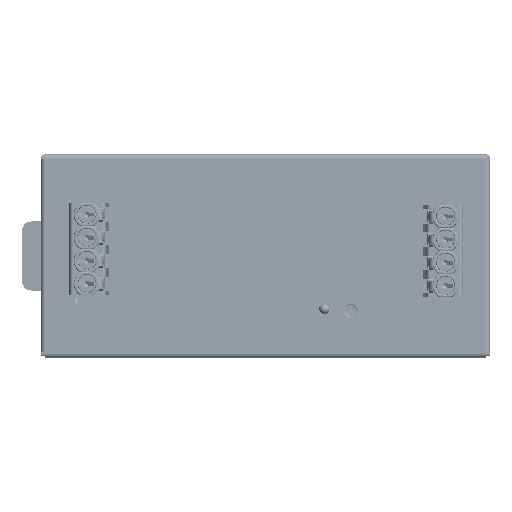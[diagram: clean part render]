
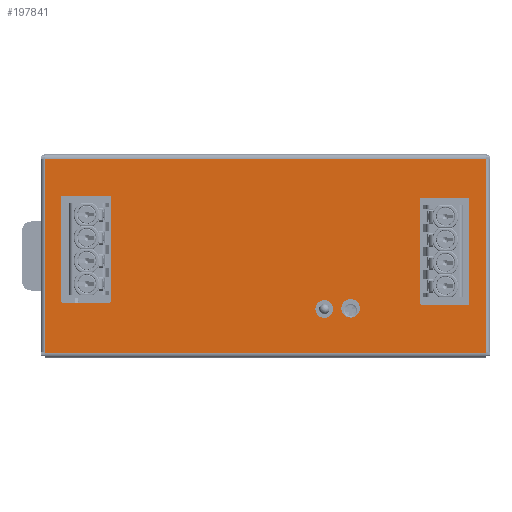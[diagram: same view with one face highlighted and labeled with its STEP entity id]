
A CAD part, front view. The second image highlights one B-rep face of the part: STEP entity #197841.
In plain terms, the highlighted planar face has unit normal (0, -1, 0).
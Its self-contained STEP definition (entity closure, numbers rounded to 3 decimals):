
#78665=DIRECTION('',(0.,0.,-1.));
#78666=VECTOR('',#78665,0.4);
#78667=CARTESIAN_POINT('',(118.1,-2.2,-6.8));
#78668=LINE('',#78667,#78666);
#78669=CARTESIAN_POINT('',(73.7,-2.2,5.));
#78670=DIRECTION('',(0.,-1.,0.));
#78671=DIRECTION('',(1.,0.,0.));
#78672=AXIS2_PLACEMENT_3D('',#78669,#78670,#78671);
#78674=CARTESIAN_POINT('',(73.7,-2.2,5.));
#78675=DIRECTION('',(0.,-1.,0.));
#78676=DIRECTION('',(-1.,0.,0.));
#78677=AXIS2_PLACEMENT_3D('',#78674,#78675,#78676);
#78679=CARTESIAN_POINT('',(80.94,-2.2,5.2));
#78680=DIRECTION('',(0.,-1.,0.));
#78681=DIRECTION('',(1.,0.,0.));
#78682=AXIS2_PLACEMENT_3D('',#78679,#78680,#78681);
#78684=CARTESIAN_POINT('',(80.94,-2.2,5.2));
#78685=DIRECTION('',(0.,-1.,0.));
#78686=DIRECTION('',(-1.,0.,0.));
#78687=AXIS2_PLACEMENT_3D('',#78684,#78685,#78686);
#78689=DIRECTION('',(0.,0.,1.));
#78690=VECTOR('',#78689,28.95);
#78691=CARTESIAN_POINT('',(14.95,-2.2,6.975));
#78692=LINE('',#78691,#78690);
#78693=CARTESIAN_POINT('',(14.75,-2.2,35.925));
#78694=DIRECTION('',(0.,-1.,0.));
#78695=DIRECTION('',(1.,0.,0.));
#78696=AXIS2_PLACEMENT_3D('',#78693,#78694,#78695);
#78698=DIRECTION('',(-1.,0.,0.));
#78699=VECTOR('',#78698,13.2);
#78700=CARTESIAN_POINT('',(14.75,-2.2,36.125));
#78701=LINE('',#78700,#78699);
#78702=CARTESIAN_POINT('',(1.55,-2.2,35.925));
#78703=DIRECTION('',(0.,-1.,0.));
#78704=DIRECTION('',(0.,0.,1.));
#78705=AXIS2_PLACEMENT_3D('',#78702,#78703,#78704);
#78707=DIRECTION('',(0.,0.,-1.));
#78708=VECTOR('',#78707,28.95);
#78709=CARTESIAN_POINT('',(1.35,-2.2,35.925));
#78710=LINE('',#78709,#78708);
#78711=CARTESIAN_POINT('',(1.55,-2.2,6.975));
#78712=DIRECTION('',(0.,-1.,0.));
#78713=DIRECTION('',(-1.,0.,0.));
#78714=AXIS2_PLACEMENT_3D('',#78711,#78712,#78713);
#78716=DIRECTION('',(1.,0.,0.));
#78717=VECTOR('',#78716,13.2);
#78718=CARTESIAN_POINT('',(1.55,-2.2,6.775));
#78719=LINE('',#78718,#78717);
#78720=CARTESIAN_POINT('',(14.75,-2.2,6.975));
#78721=DIRECTION('',(0.,-1.,0.));
#78722=DIRECTION('',(0.,0.,-1.));
#78723=AXIS2_PLACEMENT_3D('',#78720,#78721,#78722);
#78725=DIRECTION('',(-1.,0.,0.));
#78726=VECTOR('',#78725,13.2);
#78727=CARTESIAN_POINT('',(113.45,-2.2,35.6));
#78728=LINE('',#78727,#78726);
#78729=CARTESIAN_POINT('',(100.25,-2.2,35.4));
#78730=DIRECTION('',(0.,-1.,0.));
#78731=DIRECTION('',(0.,0.,1.));
#78732=AXIS2_PLACEMENT_3D('',#78729,#78730,#78731);
#78734=DIRECTION('',(0.,0.,-1.));
#78735=VECTOR('',#78734,28.95);
#78736=CARTESIAN_POINT('',(100.05,-2.2,35.4));
#78737=LINE('',#78736,#78735);
#78738=CARTESIAN_POINT('',(100.25,-2.2,6.45));
#78739=DIRECTION('',(0.,-1.,0.));
#78740=DIRECTION('',(-1.,0.,0.));
#78741=AXIS2_PLACEMENT_3D('',#78738,#78739,#78740);
#78743=DIRECTION('',(1.,0.,0.));
#78744=VECTOR('',#78743,13.2);
#78745=CARTESIAN_POINT('',(100.25,-2.2,6.25));
#78746=LINE('',#78745,#78744);
#78747=CARTESIAN_POINT('',(113.45,-2.2,6.45));
#78748=DIRECTION('',(0.,-1.,0.));
#78749=DIRECTION('',(0.,0.,-1.));
#78750=AXIS2_PLACEMENT_3D('',#78747,#78748,#78749);
#78752=DIRECTION('',(0.,0.,1.));
#78753=VECTOR('',#78752,28.95);
#78754=CARTESIAN_POINT('',(113.65,-2.2,6.45));
#78755=LINE('',#78754,#78753);
#78756=CARTESIAN_POINT('',(113.45,-2.2,35.4));
#78757=DIRECTION('',(0.,-1.,0.));
#78758=DIRECTION('',(1.,0.,0.));
#78759=AXIS2_PLACEMENT_3D('',#78756,#78757,#78758);
#78765=DIRECTION('',(0.,0.,-1.));
#78766=VECTOR('',#78765,53.2);
#78767=CARTESIAN_POINT('',(-3.1,-2.2,46.4));
#78768=LINE('',#78767,#78766);
#78822=DIRECTION('',(0.,0.,-1.));
#78823=VECTOR('',#78822,0.4);
#78824=CARTESIAN_POINT('',(-3.1,-2.2,-6.8));
#78825=LINE('',#78824,#78823);
#78843=DIRECTION('',(1.,0.,0.));
#78844=VECTOR('',#78843,121.2);
#78845=CARTESIAN_POINT('',(-3.1,-2.2,-7.2));
#78846=LINE('',#78845,#78844);
#79738=DIRECTION('',(-1.,0.,0.));
#79739=VECTOR('',#79738,121.2);
#79740=CARTESIAN_POINT('',(118.1,-2.2,46.4));
#79741=LINE('',#79740,#79739);
#79750=DIRECTION('',(0.,0.,1.));
#79751=VECTOR('',#79750,53.2);
#79752=CARTESIAN_POINT('',(118.1,-2.2,-6.8));
#79753=LINE('',#79752,#79751);
#103017=CARTESIAN_POINT('',(-3.1,-2.2,46.4));
#103018=VERTEX_POINT('',#103017);
#103019=CARTESIAN_POINT('',(118.1,-2.2,46.4));
#103020=VERTEX_POINT('',#103019);
#105243=CARTESIAN_POINT('',(-3.1,-2.2,-6.8));
#105244=VERTEX_POINT('',#105243);
#105245=CARTESIAN_POINT('',(118.1,-2.2,-6.8));
#105246=VERTEX_POINT('',#105245);
#105247=CARTESIAN_POINT('',(118.1,-2.2,-7.2));
#105248=VERTEX_POINT('',#105247);
#105249=CARTESIAN_POINT('',(-3.1,-2.2,-7.2));
#105250=VERTEX_POINT('',#105249);
#105251=CARTESIAN_POINT('',(76.15,-2.2,5.));
#105252=CARTESIAN_POINT('',(71.25,-2.2,5.));
#105253=VERTEX_POINT('',#105251);
#105254=VERTEX_POINT('',#105252);
#105255=CARTESIAN_POINT('',(83.49,-2.2,5.2));
#105256=CARTESIAN_POINT('',(78.39,-2.2,5.2));
#105257=VERTEX_POINT('',#105255);
#105258=VERTEX_POINT('',#105256);
#105259=CARTESIAN_POINT('',(14.95,-2.2,6.975));
#105260=CARTESIAN_POINT('',(14.95,-2.2,35.925));
#105261=VERTEX_POINT('',#105259);
#105262=VERTEX_POINT('',#105260);
#105263=CARTESIAN_POINT('',(14.75,-2.2,36.125));
#105264=VERTEX_POINT('',#105263);
#105265=CARTESIAN_POINT('',(1.55,-2.2,36.125));
#105266=VERTEX_POINT('',#105265);
#105267=CARTESIAN_POINT('',(1.35,-2.2,35.925));
#105268=VERTEX_POINT('',#105267);
#105269=CARTESIAN_POINT('',(1.35,-2.2,6.975));
#105270=VERTEX_POINT('',#105269);
#105271=CARTESIAN_POINT('',(1.55,-2.2,6.775));
#105272=VERTEX_POINT('',#105271);
#105273=CARTESIAN_POINT('',(14.75,-2.2,6.775));
#105274=VERTEX_POINT('',#105273);
#105275=CARTESIAN_POINT('',(113.45,-2.2,35.6));
#105276=CARTESIAN_POINT('',(100.25,-2.2,35.6));
#105277=VERTEX_POINT('',#105275);
#105278=VERTEX_POINT('',#105276);
#105279=CARTESIAN_POINT('',(100.05,-2.2,35.4));
#105280=VERTEX_POINT('',#105279);
#105281=CARTESIAN_POINT('',(100.05,-2.2,6.45));
#105282=VERTEX_POINT('',#105281);
#105283=CARTESIAN_POINT('',(100.25,-2.2,6.25));
#105284=VERTEX_POINT('',#105283);
#105285=CARTESIAN_POINT('',(113.45,-2.2,6.25));
#105286=VERTEX_POINT('',#105285);
#105287=CARTESIAN_POINT('',(113.65,-2.2,6.45));
#105288=VERTEX_POINT('',#105287);
#105289=CARTESIAN_POINT('',(113.65,-2.2,35.4));
#105290=VERTEX_POINT('',#105289);
#197775=CARTESIAN_POINT('',(-4.3,-2.2,47.6));
#197776=DIRECTION('',(0.,-1.,0.));
#197777=DIRECTION('',(-1.,0.,0.));
#197778=AXIS2_PLACEMENT_3D('',#197775,#197776,#197777);
#197779=PLANE('',#197778);
#197781=ORIENTED_EDGE('',*,*,#197780,.F.);
#197783=ORIENTED_EDGE('',*,*,#197782,.F.);
#197785=ORIENTED_EDGE('',*,*,#197784,.F.);
#197786=ORIENTED_EDGE('',*,*,#197766,.T.);
#197788=ORIENTED_EDGE('',*,*,#197787,.F.);
#197790=ORIENTED_EDGE('',*,*,#197789,.F.);
#197791=EDGE_LOOP('',(#197781,#197783,#197785,#197786,#197788,#197790));
#197792=FACE_OUTER_BOUND('',#197791,.F.);
#197794=ORIENTED_EDGE('',*,*,#197793,.T.);
#197796=ORIENTED_EDGE('',*,*,#197795,.T.);
#197797=EDGE_LOOP('',(#197794,#197796));
#197798=FACE_BOUND('',#197797,.F.);
#197800=ORIENTED_EDGE('',*,*,#197799,.T.);
#197802=ORIENTED_EDGE('',*,*,#197801,.T.);
#197803=EDGE_LOOP('',(#197800,#197802));
#197804=FACE_BOUND('',#197803,.F.);
#197806=ORIENTED_EDGE('',*,*,#197805,.T.);
#197808=ORIENTED_EDGE('',*,*,#197807,.T.);
#197810=ORIENTED_EDGE('',*,*,#197809,.T.);
#197812=ORIENTED_EDGE('',*,*,#197811,.T.);
#197814=ORIENTED_EDGE('',*,*,#197813,.T.);
#197816=ORIENTED_EDGE('',*,*,#197815,.T.);
#197818=ORIENTED_EDGE('',*,*,#197817,.T.);
#197820=ORIENTED_EDGE('',*,*,#197819,.T.);
#197821=EDGE_LOOP('',(#197806,#197808,#197810,#197812,#197814,#197816,#197818,
#197820));
#197822=FACE_BOUND('',#197821,.F.);
#197824=ORIENTED_EDGE('',*,*,#197823,.T.);
#197826=ORIENTED_EDGE('',*,*,#197825,.T.);
#197828=ORIENTED_EDGE('',*,*,#197827,.T.);
#197830=ORIENTED_EDGE('',*,*,#197829,.T.);
#197832=ORIENTED_EDGE('',*,*,#197831,.T.);
#197834=ORIENTED_EDGE('',*,*,#197833,.T.);
#197836=ORIENTED_EDGE('',*,*,#197835,.T.);
#197838=ORIENTED_EDGE('',*,*,#197837,.T.);
#197839=EDGE_LOOP('',(#197824,#197826,#197828,#197830,#197832,#197834,#197836,
#197838));
#197840=FACE_BOUND('',#197839,.F.);
#78673=CIRCLE('',#78672,2.45);
#78678=CIRCLE('',#78677,2.45);
#78683=CIRCLE('',#78682,2.55);
#78688=CIRCLE('',#78687,2.55);
#78697=CIRCLE('',#78696,0.2);
#78706=CIRCLE('',#78705,0.2);
#78715=CIRCLE('',#78714,0.2);
#78724=CIRCLE('',#78723,0.2);
#78733=CIRCLE('',#78732,0.2);
#78742=CIRCLE('',#78741,0.2);
#78751=CIRCLE('',#78750,0.2);
#78760=CIRCLE('',#78759,0.2);
#197766=EDGE_CURVE('',#105246,#105248,#78668,.T.);
#197780=EDGE_CURVE('',#103018,#105244,#78768,.T.);
#197782=EDGE_CURVE('',#103020,#103018,#79741,.T.);
#197784=EDGE_CURVE('',#105246,#103020,#79753,.T.);
#197787=EDGE_CURVE('',#105250,#105248,#78846,.T.);
#197789=EDGE_CURVE('',#105244,#105250,#78825,.T.);
#197793=EDGE_CURVE('',#105253,#105254,#78673,.T.);
#197795=EDGE_CURVE('',#105254,#105253,#78678,.T.);
#197799=EDGE_CURVE('',#105257,#105258,#78683,.T.);
#197801=EDGE_CURVE('',#105258,#105257,#78688,.T.);
#197805=EDGE_CURVE('',#105261,#105262,#78692,.T.);
#197807=EDGE_CURVE('',#105262,#105264,#78697,.T.);
#197809=EDGE_CURVE('',#105264,#105266,#78701,.T.);
#197811=EDGE_CURVE('',#105266,#105268,#78706,.T.);
#197813=EDGE_CURVE('',#105268,#105270,#78710,.T.);
#197815=EDGE_CURVE('',#105270,#105272,#78715,.T.);
#197817=EDGE_CURVE('',#105272,#105274,#78719,.T.);
#197819=EDGE_CURVE('',#105274,#105261,#78724,.T.);
#197823=EDGE_CURVE('',#105277,#105278,#78728,.T.);
#197825=EDGE_CURVE('',#105278,#105280,#78733,.T.);
#197827=EDGE_CURVE('',#105280,#105282,#78737,.T.);
#197829=EDGE_CURVE('',#105282,#105284,#78742,.T.);
#197831=EDGE_CURVE('',#105284,#105286,#78746,.T.);
#197833=EDGE_CURVE('',#105286,#105288,#78751,.T.);
#197835=EDGE_CURVE('',#105288,#105290,#78755,.T.);
#197837=EDGE_CURVE('',#105290,#105277,#78760,.T.);
#197841=ADVANCED_FACE('',(#197792,#197798,#197804,#197822,#197840),#197779,.T.);
